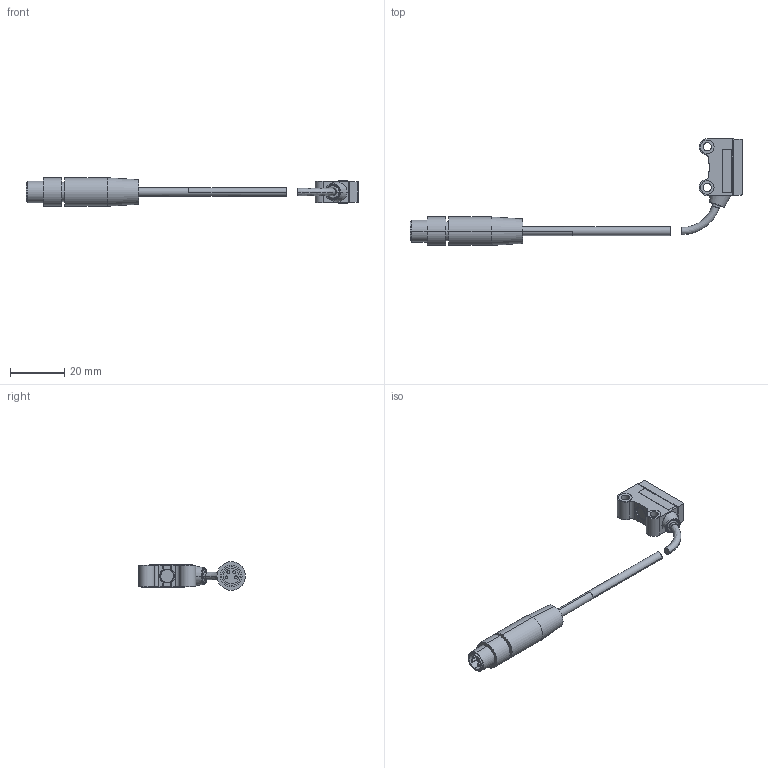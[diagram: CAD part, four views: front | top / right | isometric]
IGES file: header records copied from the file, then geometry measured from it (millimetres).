
Start section:  PTC IGES file: 2037086
Global section: file name: 2037086; native system: Creo Parametric by PTC Inc.; preprocessor: 2019292; author: l.wegerer; organization: Unknown; date: 20260629.065124; units: millimetre
Bounding box: 122.33 x 39.37 x 10.5 mm (x, y, z)
Surface area: 3762.3 mm2 (no closed solid volume)
Topology: 0 solids, 0 shells, 158 faces, 784 edges, 784 vertices
Faces by surface type: revolution 82, bspline 76
